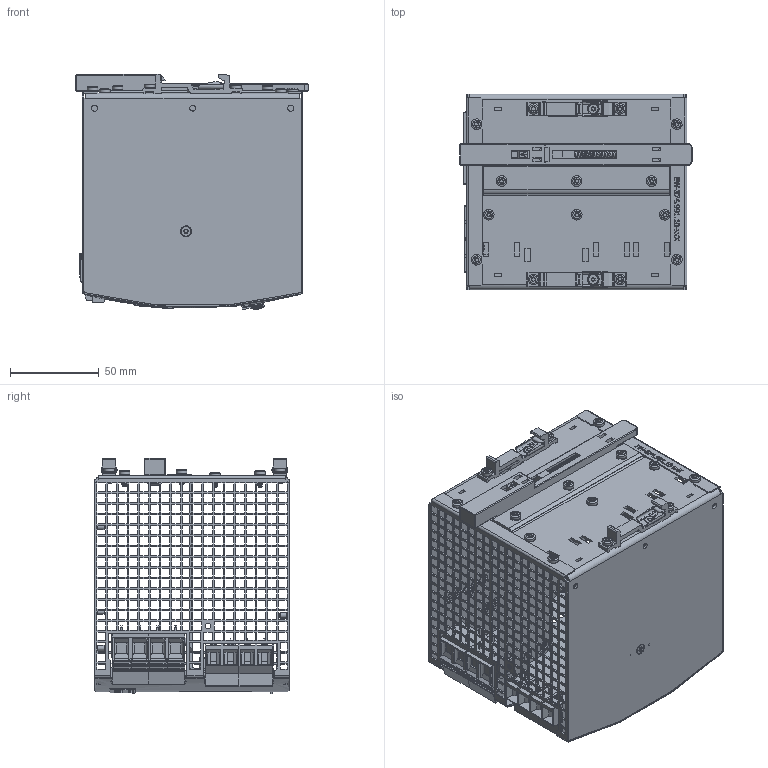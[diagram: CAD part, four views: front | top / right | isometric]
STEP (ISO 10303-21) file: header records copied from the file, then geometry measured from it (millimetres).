
FILE_DESCRIPTION(/* description */ (''),/* implementation_level */ '2;1');
FILE_NAME(/* name */ 'C:\Users\zridah\Desktop\QT40_361.stp',/* time_stamp */ '2021-07-14T09:40:49+02:00',/* author */ ('Klaus'),/* organization */ (''),/* preprocessor_version */ 'ST-DEVELOPER v18.1',/* originating_system */ 'Autodesk Inventor 2020',/* authorisation */ '370443,1 mm^3');
FILE_SCHEMA (('AUTOMOTIVE_DESIGN { 1 0 10303 214 3 1 1 }'));
Products named in the file (30): AN-374.100.00; AP-374.209.00; EW-374.992.00; AP-374.310.00; AP-374.240.00; XT-LP2BK-D5; XT-LP4SW-R3; Symbol_Wärmeleitpaste; ED-T4008_ETT-14_Zusatz9; EF-DRUFE1-10; EW-100.974.00; EW-100.975.00; AP-374.219.00; EW-374.995.00; AP-374.220.00; AP-374.230.00I; XT-LP2BK-D3; AP-374.260.00D; EC-WLP-22; EW-360.910.00; EW-374.991.10; EL-374.942.00; EA-348.920.00; ED-4008_7985-10; ED-B40_127-10; ED-A32_6797-10; EW-353.900.00; ED-T3006_7500-50; ED-T3006_7500-15; XA-KS_G-A9
Assembly tree (66 placements, depth 5):
  AN-374.100.00
    AP-374.209.00
      EW-374.992.00
      AP-374.310.00
        AP-374.240.00
          XT-LP2BK-D5  x2
        XT-LP4SW-R3
      Symbol_Wärmeleitpaste  x12
      ED-T4008_ETT-14_Zusatz9
      ED-T3006_7500-15  x5
      EF-DRUFE1-10
      EW-353.900.00
      EW-360.910.00
      EW-100.974.00
      EW-100.975.00
      ED-T3006_7500-50  x2
    AP-374.219.00
      EW-374.995.00
      AP-374.220.00
        AP-374.230.00I
          XT-LP2BK-D3  x2
        AP-374.260.00D
      ED-T3006_7500-50  x3
      EC-WLP-22  x2
      ED-T3006_7500-15
    EW-360.910.00
    EW-374.991.10
    EL-374.942.00
    EA-348.920.00
    ED-4008_7985-10
    ED-B40_127-10
    ED-T3006_7500-50  x9
    ED-A32_6797-10  x3
    EW-353.900.00
    ED-T3006_7500-15
    XA-KS_G-A9
Bounding box: 130.5 x 110.08 x 132.2 mm (x, y, z)
Volume: 130157.1 mm3; surface area: 208861.2 mm2
Topology: 63 solids, 67 shells, 5892 faces, 16794 edges, 11159 vertices
Faces by surface type: plane 4430, cylinder 952, bspline 288, torus 114, cone 93, sphere 15
Full cylindrical faces by diameter (mm): 0.3 x4, 1.9 x14, 2.18 x70, 2.45 x9, 2.5 x1, 2.6 x28, 2.7 x2, 2.9 x1, 3 x12, 3.1 x7, 3.2 x13, 3.4 x4, 3.621 x1, 3.8 x1, 4 x3, 4.3 x2, 4.355 x1, 4.45 x4, 4.5 x3, 4.6 x1, 4.75 x2, 5.04 x4, 5.2 x4, 5.6 x7, 6 x26, 7 x4, 7.35 x4
Entity records: 155919 total; most frequent: CARTESIAN_POINT 35538, ORIENTED_EDGE 25544, DIRECTION 21915, EDGE_CURVE 12772, LINE 11121, VECTOR 11121, VERTEX_POINT 8496, EDGE_LOOP 5904
